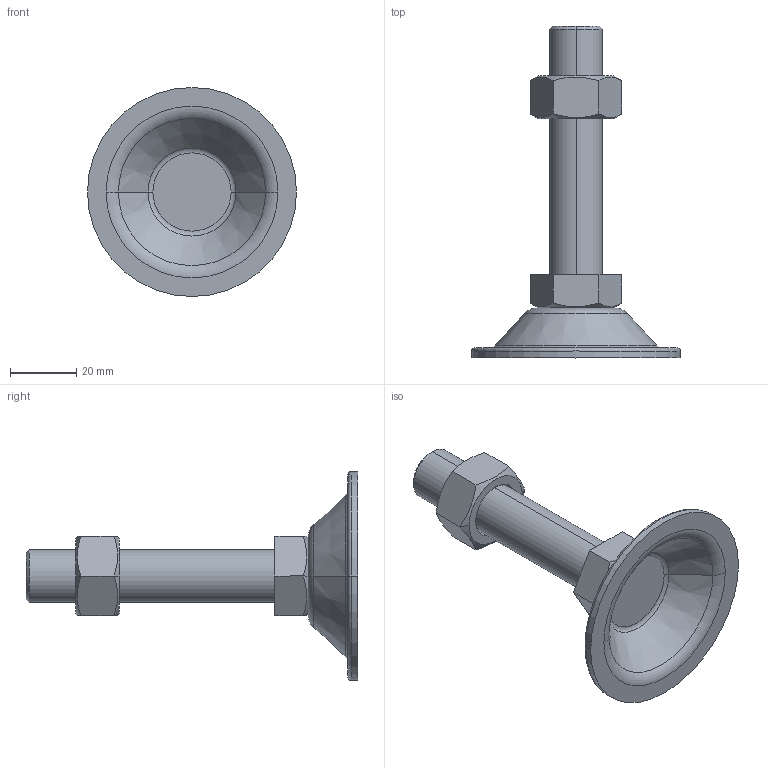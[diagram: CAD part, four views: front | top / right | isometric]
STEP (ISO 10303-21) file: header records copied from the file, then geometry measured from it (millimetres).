
FILE_DESCRIPTION (( 'STEP AP214' ), '1' );
FILE_NAME ('BL63-M16-75.step', '2021-01-06T05:39:31', ( '' ), ( '' ), 'SwSTEP 2.0', 'SolidWorks 2019', '' );
FILE_SCHEMA (( 'AUTOMOTIVE_DESIGN' ));
Length unit declared in the file: millimetre
Products named in the file (1): BL63-M16-75
Bounding box: 63 x 100 x 63 mm (x, y, z)
Volume: 34836.2 mm3; surface area: 15636.5 mm2
Topology: 3 solids, 3 shells, 53 faces, 110 edges, 66 vertices
Faces by surface type: plane 21, cone 16, torus 10, cylinder 6
Entity records: 1618 total; most frequent: CARTESIAN_POINT 428, DIRECTION 252, ORIENTED_EDGE 220, EDGE_CURVE 110, AXIS2_PLACEMENT_3D 106, VERTEX_POINT 66, EDGE_LOOP 58, FACE_OUTER_BOUND 53
